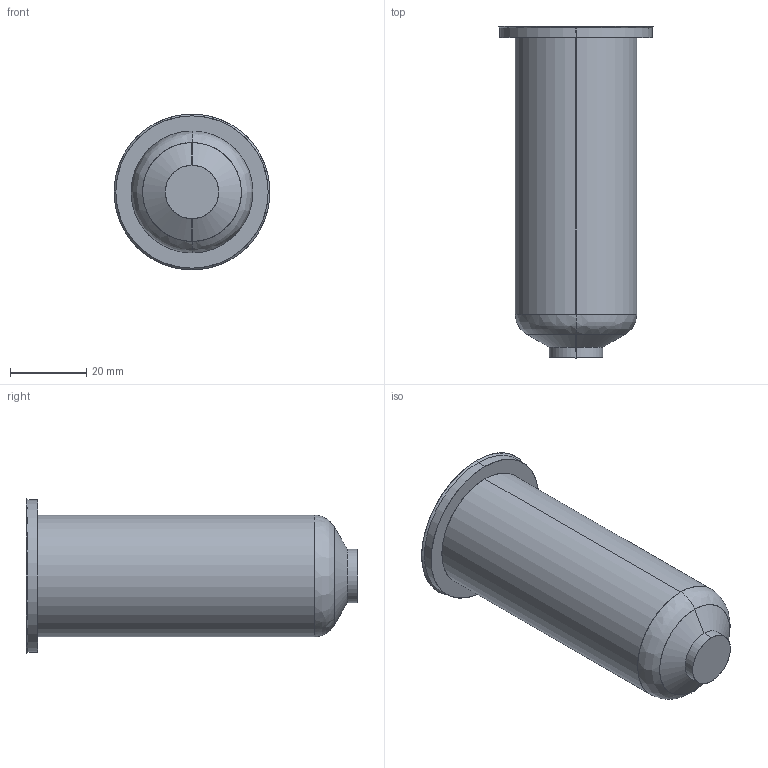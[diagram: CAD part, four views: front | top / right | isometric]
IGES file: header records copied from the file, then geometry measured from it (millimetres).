
Start section: SolidWorks IGES file using analytic representation for surfaces
Global section: file name: C:\Documents and Settings\ws-20\Desktop\TEM\Sede UGEP4102-M-A C-84 L-104 P-0.IGS; native system: SolidWorks 2012; preprocessor: SolidWorks 2012; author: ws-20; date: 120426.091230; units: millimetre
Bounding box: 41 x 87.21 x 41 mm (x, y, z)
Surface area: 10793.5 mm2 (no closed solid volume)
Topology: 0 solids, 0 shells, 15 faces, 272 edges, 272 vertices
Faces by surface type: revolution 10, bspline 5
